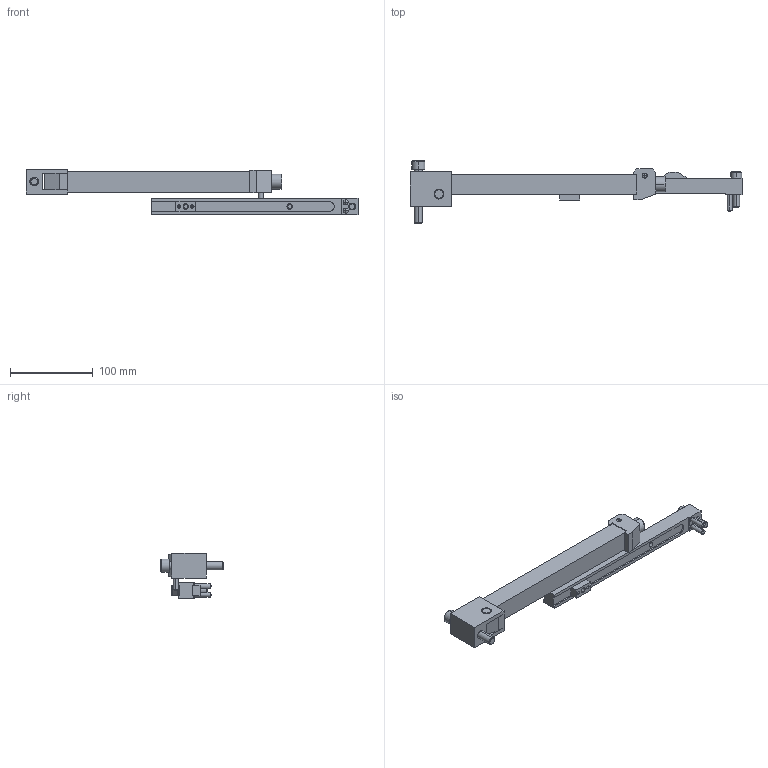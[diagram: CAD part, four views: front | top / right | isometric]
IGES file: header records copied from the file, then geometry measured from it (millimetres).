
Start section: START RECORD GO HERE.
Global section: file name: BOX250FIX.igs; native system: DASSAULT SYSTEMES CATIA V5 R20 - www.3ds.com; preprocessor: CATIA Version 5 Release 20 ; author: Utente; organization: NB04-ASUS; date: 20210221.175405; units: millimetre
Bounding box: 401 x 75 x 55 mm (x, y, z)
Surface area: 88367.7 mm2 (no closed solid volume)
Topology: 0 solids, 0 shells, 280 faces, 1568 edges, 1526 vertices
Faces by surface type: revolution 152, plane 128
